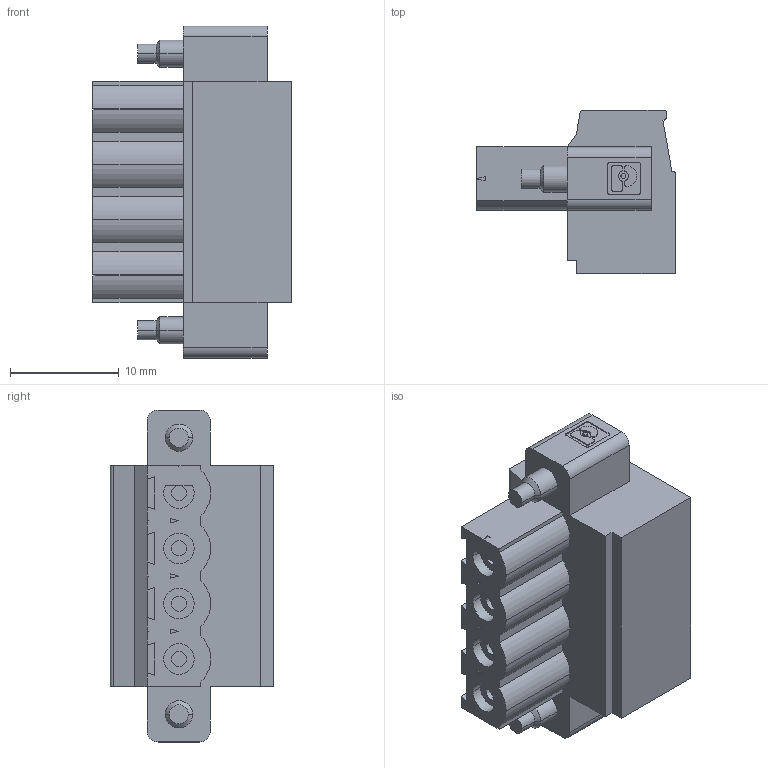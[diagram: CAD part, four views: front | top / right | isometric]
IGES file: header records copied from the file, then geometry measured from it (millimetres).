
Start section:  PTC IGES file: conn_cont_4_pos_cmbcn.igs
Global section: file name: conn_cont_4_pos_cmbcn.igs; native system: Pro/ENGINEER by Parametric Technology Corporation; preprocessor: 2006080; author: chrisj; organization: Unknown; date: 070125.132656; units: inch
Bounding box: 18.2 x 15 x 30.48 mm (x, y, z)
Surface area: 2656.6 mm2 (no closed solid volume)
Topology: 0 solids, 0 shells, 309 faces, 1577 edges, 1564 vertices
Faces by surface type: bspline 205, revolution 104
